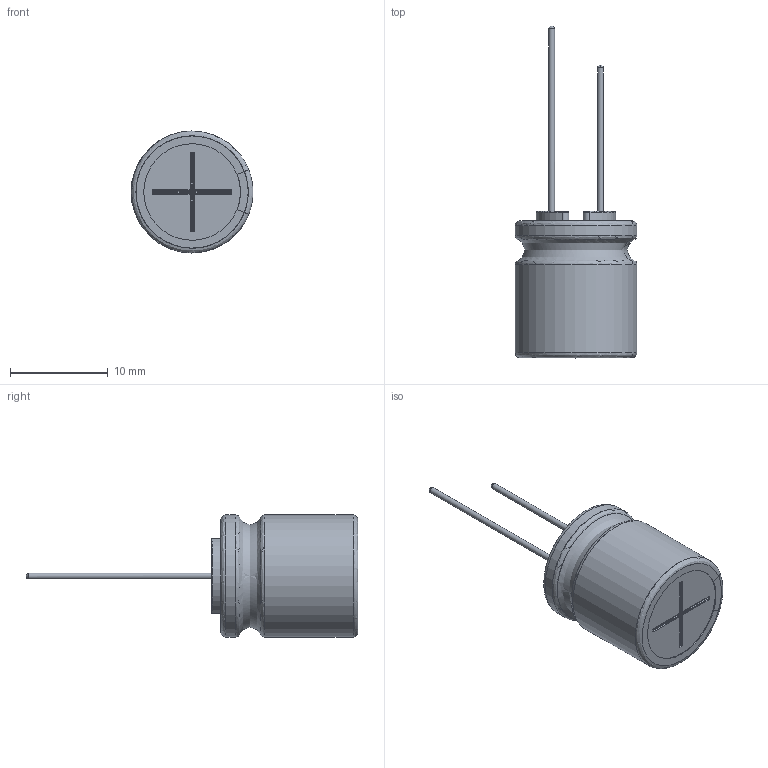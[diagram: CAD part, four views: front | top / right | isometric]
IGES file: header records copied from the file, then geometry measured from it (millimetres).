
Start section: JAMA-IS VERSION  1.0
Bounding box: 12.48 x 34 x 12.5 mm (x, y, z)
Surface area: 2176.4 mm2 (no closed solid volume)
Topology: 0 solids, 0 shells, 132 faces, 1445 edges, 1424 vertices
Faces by surface type: bspline 132
